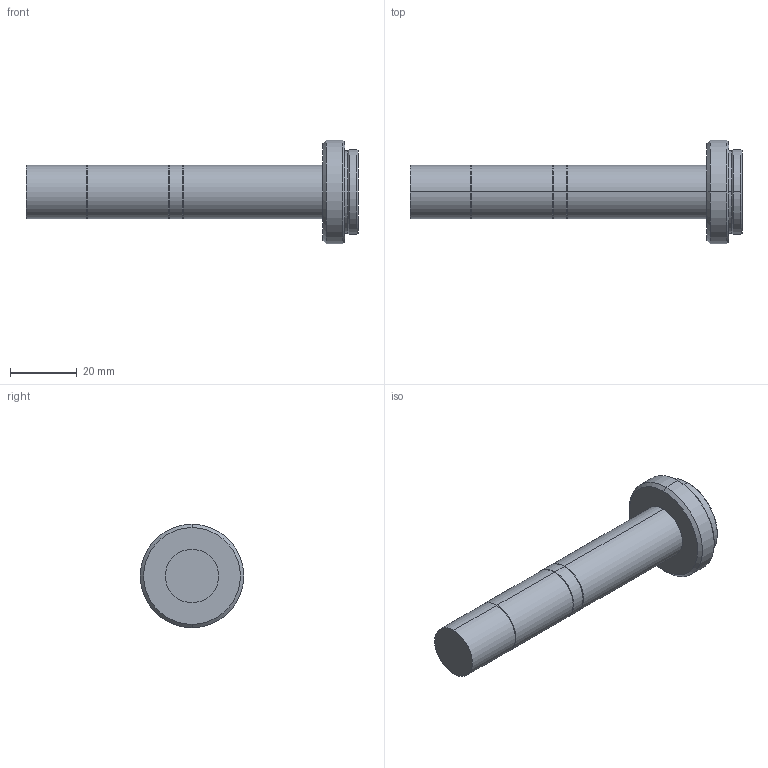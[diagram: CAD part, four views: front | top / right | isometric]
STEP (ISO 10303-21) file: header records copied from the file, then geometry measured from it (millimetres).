
FILE_DESCRIPTION (( 'STEP AP203' ), '1' );
FILE_NAME ('VS-TC8-65.STEP', '2020-02-13T00:59:46', ( '' ), ( '' ), 'SwSTEP 2.0', 'SolidWorks 2017', '' );
FILE_SCHEMA (( 'CONFIG_CONTROL_DESIGN' ));
Length unit declared in the file: millimetre
Products named in the file (1): VS-TC8-65
Bounding box: 99.5 x 31 x 31 mm (x, y, z)
Volume: 24722.2 mm3; surface area: 6883.1 mm2
Topology: 1 solids, 1 shells, 38 faces, 74 edges, 40 vertices
Faces by surface type: cone 20, cylinder 14, plane 4
Entity records: 1031 total; most frequent: DIRECTION 192, CARTESIAN_POINT 153, ORIENTED_EDGE 148, AXIS2_PLACEMENT_3D 79, EDGE_CURVE 74, VERTEX_POINT 40, CIRCLE 40, EDGE_LOOP 40
